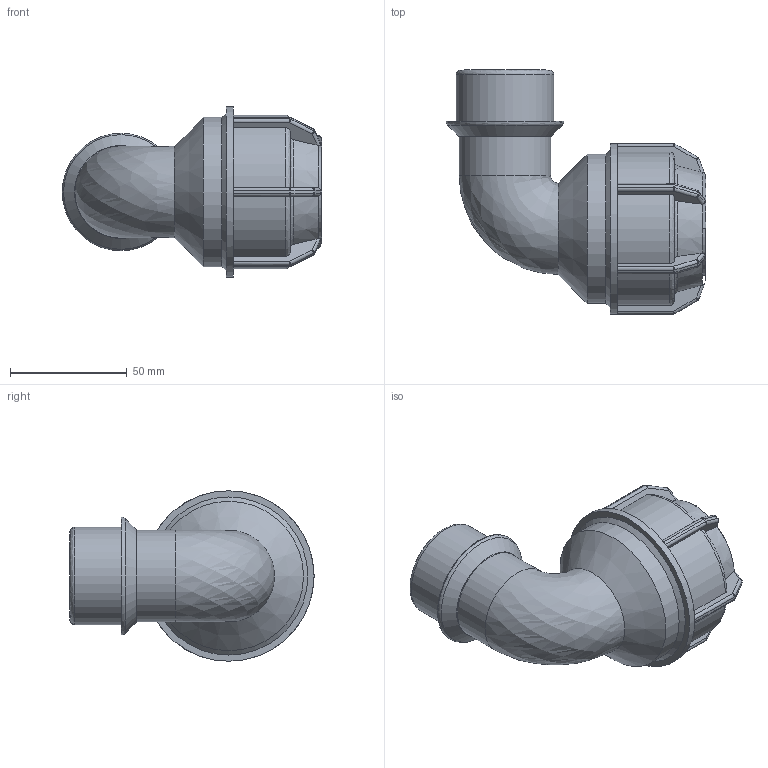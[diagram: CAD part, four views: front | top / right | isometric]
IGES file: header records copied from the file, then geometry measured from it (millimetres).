
Global section: file name: 148500040013.ipt; native system: Autodesk Inventor 2015; preprocessor: unknown; author: KIM; date: 20180409.131258; units: millimetre
Bounding box: 111.15 x 104.5 x 73 mm (x, y, z)
Volume: 138853 mm3; surface area: 46062.9 mm2
Topology: 1 solids, 1 shells, 213 faces, 509 edges, 297 vertices
Faces by surface type: plane 98, cylinder 59, sphere 24, revolution 23, cone 9
Full cylindrical faces by diameter (mm): 39.186 x1, 41.91 x1, 50.292 x1, 64 x1, 73 x1
